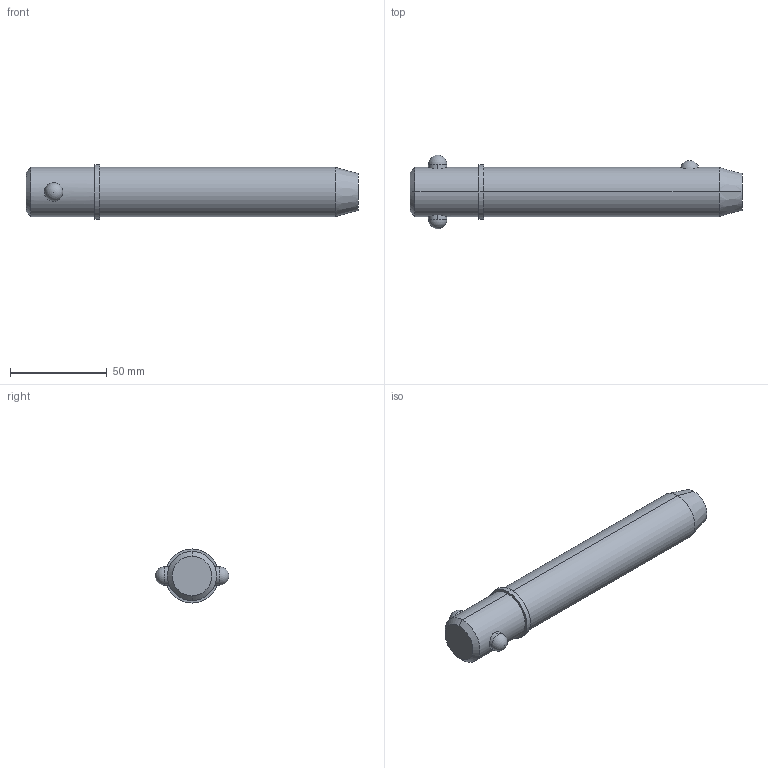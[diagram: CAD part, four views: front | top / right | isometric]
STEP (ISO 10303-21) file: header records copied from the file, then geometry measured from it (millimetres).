
FILE_DESCRIPTION (( 'STEP AP203' ), '1' );
FILE_NAME ('33018.W1040.step', '2024-11-19T17:24:36', ( '' ), ( '' ), 'SwSTEP 2.0', 'SolidWorks 2019', '' );
FILE_SCHEMA (( 'CONFIG_CONTROL_DESIGN' ));
Length unit declared in the file: millimetre
Products named in the file (3): Part2_33018.W1040; 33018.W1040; Part1_33018.W1040
Assembly tree (2 placements, depth 2):
  33018.W1040
    Part1_33018.W1040
    Part2_33018.W1040
Bounding box: 171.45 x 38.1 x 27.94 mm (x, y, z)
Volume: 86400.4 mm3; surface area: 16266.4 mm2
Topology: 2 solids, 2 shells, 22 faces, 47 edges, 30 vertices
Faces by surface type: cylinder 10, sphere 4, cone 4, plane 4
Entity records: 1071 total; most frequent: CARTESIAN_POINT 314, DIRECTION 110, ORIENTED_EDGE 82, AXIS2_PLACEMENT_3D 48, EDGE_CURVE 41, EDGE_LOOP 27, PERSON_AND_ORGANIZATION 26, VERTEX_POINT 26
